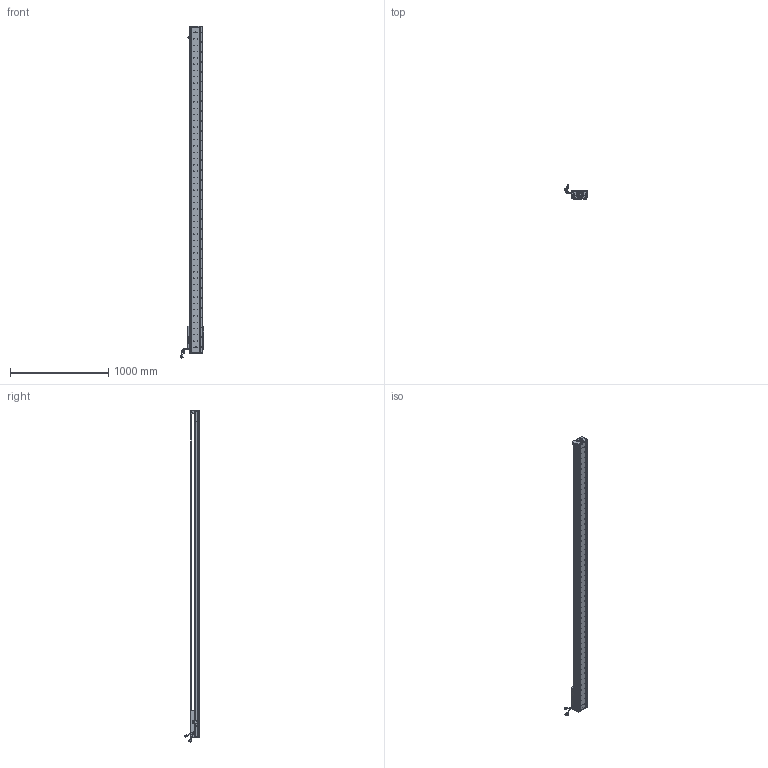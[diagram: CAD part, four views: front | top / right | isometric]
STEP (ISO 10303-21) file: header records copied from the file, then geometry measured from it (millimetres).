
FILE_DESCRIPTION (( 'STEP AP203' ), '1' );
FILE_NAME ('Z3-RY140D-1-L500-B-K.SLDASM_3000.step', '2021-05-17T08:07:36', ( '盈信电脑' ), ( '东莞市道滘镇水果街19号' ), 'SwSTEP 2.0', 'SolidWorks 2016', '' );
FILE_SCHEMA (( 'CONFIG_CONTROL_DESIGN' ));
Length unit declared in the file: millimetre
Products named in the file (36): PSLH080_PSLF2; HARNESS; SEAL-Part-1; SCALE; Z3-RY140D-1-L500-B-K.SLDASM_3000; Z-140詩湍傷裔啣; 140雄赽晤鎢ん堤盄; SCREW-M1.7; HOLDER0; Z3-RY140-L500直线电机模组底座_3000; SCALE-Part-2; 080黍杅芛假蚾釱21遴; COVER-Part-1; 榋妏寠巭燃_暯_M2_2; Z3-RY140-L500詩湍100mm遵_3000; HARNESS-Part-1; LABEL-Part-1; SCREW-M1.6-3; HARNESS-Part-2; LABEL; Z-RY140詩湍狟揤裔; SCREW-M1.7-1; Z-RY140詩湍奻揤裔; SCREW-M1.6; SCREW-M1.6-2; SCREW-M1.6-1; 140-Z-臏賑輸盄裔(21遴); PBU_SHEET; SCALE-Part-1; Z3-RY140圉猾敕臏賑輸(21遴); SHIELDPLATE; 覜茼ん672; SEAL; COVER; 140蚥薯蝶輸; Z-RY140感应器672光电感应片
Assembly tree (41 placements, depth 4):
  Z3-RY140D-1-L500-B-K.SLDASM_3000
    Z3-RY140-L500直线电机模组底座_3000
    Z-RY140感应器672光电感应片
    Z3-RY140圉猾敕臏賑輸(21遴)
    覜茼ん672  x3
    Z3-RY140-L500詩湍100mm遵_3000
    PSLH080_PSLF2
      SCALE
        SCALE-Part-1
        SCALE-Part-2
      HARNESS
        HARNESS-Part-1
        HARNESS-Part-2
      LABEL
        LABEL-Part-1
      COVER
        COVER-Part-1
      SEAL
        SEAL-Part-1
      榋妏寠巭燃_暯_M2_2
      SHIELDPLATE
      SCREW-M1.7
      SCREW-M1.7-1
      PBU_SHEET
      SCREW-M1.6
      SCREW-M1.6-1
      SCREW-M1.6-2
      SCREW-M1.6-3
      HOLDER0
    080黍杅芛假蚾釱21遴
    140-Z-臏賑輸盄裔(21遴)
    Z-140詩湍傷裔啣  x2
    Z-RY140詩湍狟揤裔  x2
    Z-RY140詩湍奻揤裔  x2
    140蚥薯蝶輸  x2
    140雄赽晤鎢ん堤盄
Bounding box: 239.79 x 143.88 x 3375.87 mm (x, y, z)
Volume: 10558322.9 mm3; surface area: 2755847.9 mm2
Topology: 36 solids, 36 shells, 4632 faces, 12712 edges, 8053 vertices
Faces by surface type: cylinder 2594, plane 1466, cone 450, torus 69, bspline 53
Entity records: 150144 total; most frequent: CARTESIAN_POINT 43589, ORIENTED_EDGE 22248, DIRECTION 20236, EDGE_CURVE 11124, AXIS2_PLACEMENT_3D 7548, VERTEX_POINT 7221, LINE 5140, VECTOR 5140
